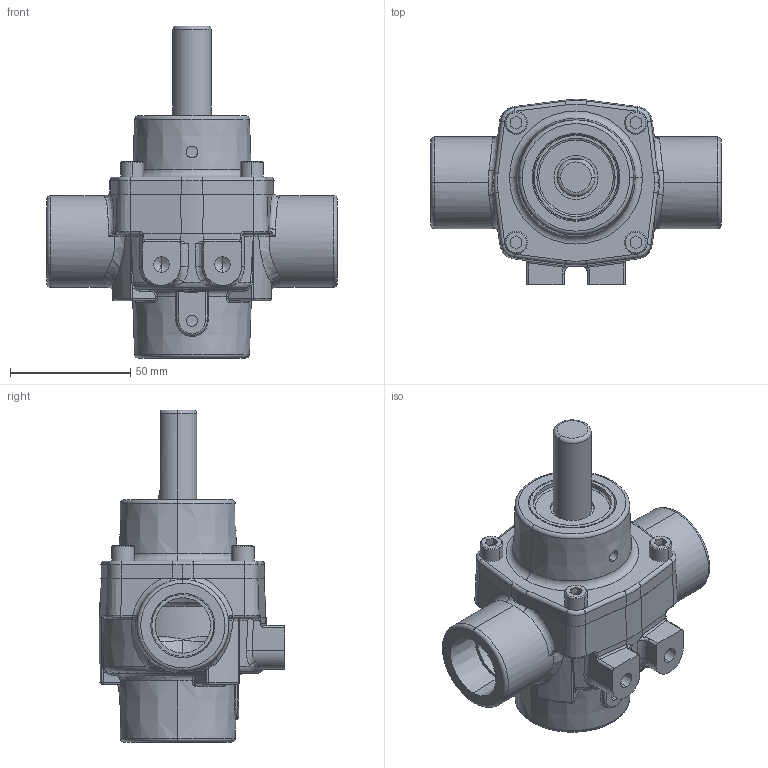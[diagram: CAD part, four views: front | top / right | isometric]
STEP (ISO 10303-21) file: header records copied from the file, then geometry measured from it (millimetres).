
FILE_DESCRIPTION (( 'STEP AP203' ), '1' );
FILE_NAME ('4001C-R.STEP', '2014-04-03T18:33:58', ( '' ), ( '' ), 'SwSTEP 2.0', 'SolidWorks 2012', '' );
FILE_SCHEMA (( 'CONFIG_CONTROL_DESIGN' ));
Products named in the file (1): 4001C-R
Bounding box: 120.65 x 76.97 x 137.92 mm (x, y, z)
Volume: 325235.6 mm3; surface area: 50878.4 mm2
Topology: 1 solids, 8 shells, 780 faces, 1937 edges, 1175 vertices
Faces by surface type: cylinder 282, bspline 185, plane 147, torus 94, cone 57, sphere 15
Entity records: 49232 total; most frequent: CARTESIAN_POINT 32537, ORIENTED_EDGE 3816, DIRECTION 3030, EDGE_CURVE 1908, AXIS2_PLACEMENT_3D 1254, VERTEX_POINT 1173, EDGE_LOOP 819, FACE_OUTER_BOUND 780
